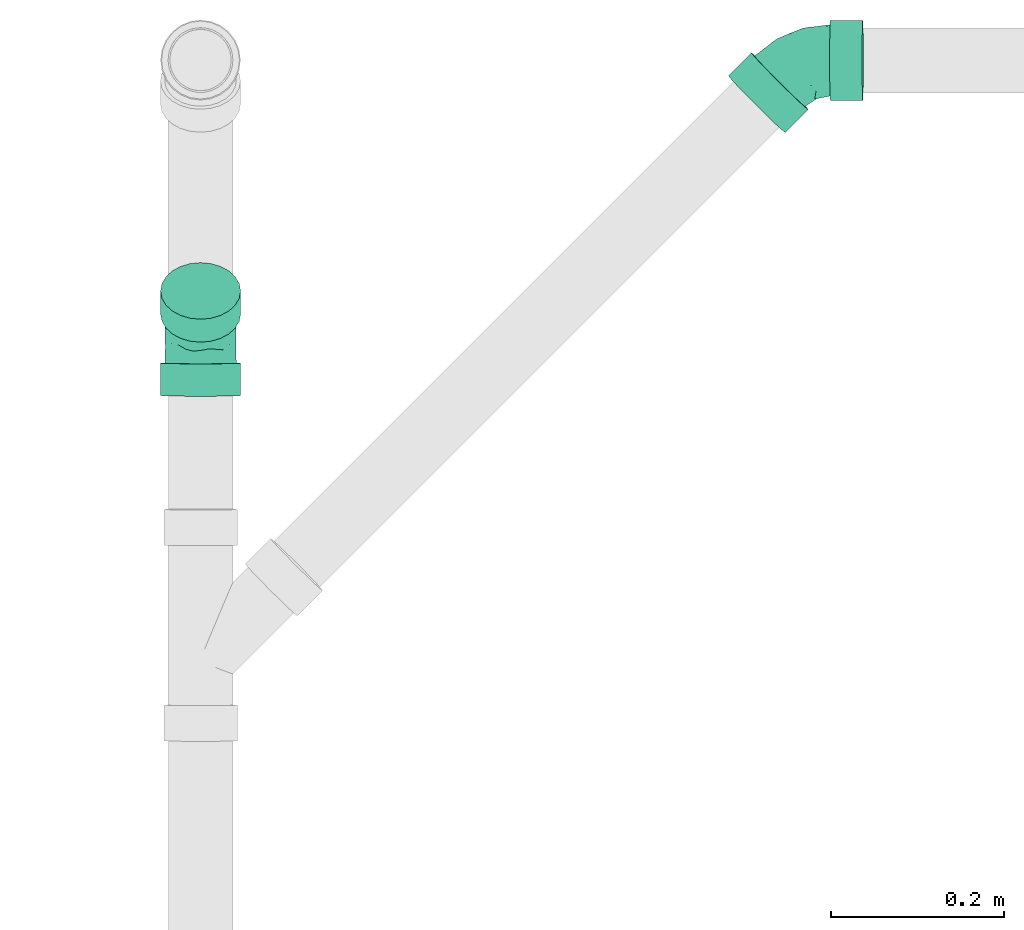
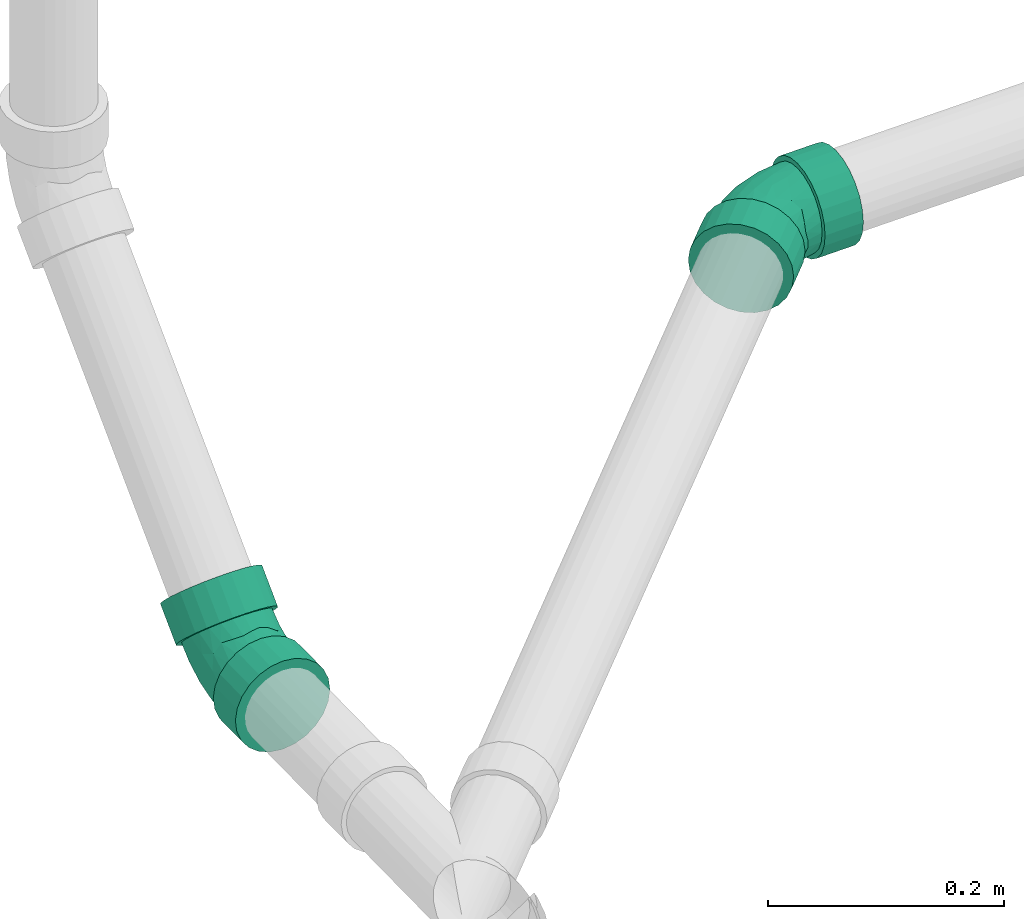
# One storey, part 15 of 18: 2 flow fittings.
"""IFC2X3 building model written with IfcOpenShell, lengths in millimetres."""

from ifc_helpers import new_model, entity, si_unit, converted_unit, derived_unit, direction, frame, origin_with_axes, place, context, subcontext, project, spatial, open_shell, surface_model, source, transform, mapped, type_object, element, save


model = new_model("IFC2X3")

# Units and contexts
model_context = context("Model", 3, precision=0.01, world=frame((0.0, 4.29681676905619e-09, 0.0)), true_north=direction((4.01073788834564e-13, 1.0)))
plan_context = context("Plan", 3, precision=0.01, world=frame((0.0, 4.29681676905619e-09, 0.0)), true_north=direction((4.01073788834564e-13, 1.0)))
body_context = subcontext(model_context, "Body", "Model", "MODEL_VIEW")
ifc_project = project(units=[converted_unit("PLANEANGLEUNIT", "DEGREE", entity("IfcPositiveLengthMeasure", 0.0174532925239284), si_unit("PLANEANGLEUNIT", "RADIAN"), dimensions=[0, 0, 0, 0, 0, 0, 0]), si_unit("AREAUNIT", "SQUARE_METRE"), si_unit("LENGTHUNIT", "METRE", prefix="MILLI"), si_unit("MASSUNIT", "GRAM", prefix="KILO"), si_unit("POWERUNIT", "WATT"), si_unit("PRESSUREUNIT", "PASCAL", prefix="KILO"), si_unit("FORCEUNIT", "NEWTON", prefix="KILO"), si_unit("ELECTRICVOLTAGEUNIT", "VOLT"), si_unit("ELECTRICCURRENTUNIT", "AMPERE"), si_unit("THERMODYNAMICTEMPERATUREUNIT", "DEGREE_CELSIUS"), si_unit("TIMEUNIT", "SECOND"), si_unit("VOLUMEUNIT", "CUBIC_METRE"), derived_unit("LINEARVELOCITYUNIT", [(si_unit("LENGTHUNIT", "METRE"), 1), (si_unit("TIMEUNIT", "SECOND"), -1)]), derived_unit("VOLUMETRICFLOWRATEUNIT", [(si_unit("VOLUMEUNIT", "CUBIC_METRE"), 1), (si_unit("TIMEUNIT", "SECOND"), -1)]), derived_unit("THERMALTRANSMITTANCEUNIT", [(si_unit("POWERUNIT", "WATT"), 1), (si_unit("THERMODYNAMICTEMPERATUREUNIT", "KELVIN"), -1), (si_unit("AREAUNIT", "SQUARE_METRE"), -1)]), derived_unit("SOUNDPRESSUREUNIT", [(si_unit("PRESSUREUNIT", "PASCAL"), 1)])], contexts=[model_context, plan_context])

# Site, building, storey
site_placement = place(None, frame((0.0, -4.29681676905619e-09, 0.0), z_axis=(0.0, 0.0, 1.0), x_axis=(1.0, 0.0, 0.0)))
site = spatial("IfcSite", under=ifc_project, at=site_placement, Name="ENGM", CompositionType="ELEMENT")
building_placement = place(site_placement, frame((0.0, 4.29681676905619e-09, 0.0), z_axis=(0.0, 0.0, 1.0), x_axis=(1.0, 0.0, 0.0)))
building = spatial("IfcBuilding", under=site, at=building_placement, Name="TI", CompositionType="ELEMENT")
storey_placement = place(building_placement, frame((0.0, 0.0, 204000.0), z_axis=(0.0, 0.0, 1.0), x_axis=(1.0, 0.0, 0.0)))
storey = spatial("IfcBuildingStorey", under=building, at=storey_placement, Name="Nivå D", CompositionType="ELEMENT", Elevation=204000.0)

# Flow fittings
pipe_fitting_type = type_object("IfcPipeFittingType", Name="magi_sewer_bend_001", PredefinedType="BEND")
shared_shape_1 = source(origin_with_axes(), body_context, "Body", "SurfaceModel", [
    surface_model("IfcShellBasedSurfaceModel", [(-71.66702, -44.67407, -11.97038), (-71.66702, -11.97038, -44.67407), (-71.66702, -23.125, -40.05367), (-71.66702, -32.70369, -32.70369), (-71.66702, 0.0, -46.25), (-71.66702, -40.05367, -23.125), (-71.66702, -46.25, 0.0), (-71.66702, 11.97038, -44.67407), (-71.66702, 32.70369, -32.70369), (-71.66702, 23.125, -40.05367), (-71.66702, 44.67407, -11.97038), (-71.66702, 40.05367, -23.125), (-71.66702, -32.70369, 32.70369), (-71.66702, -44.67407, 11.97038), (-71.66702, -40.05367, 23.125), (-71.66702, 40.05367, 23.125), (-71.66702, -23.125, 40.05367), (-71.66702, -11.97038, 44.67407), (-71.66702, 0.0, 46.25), (-71.66702, 11.97038, 44.67407), (-71.66702, 44.67407, 11.97038), (-71.66702, 46.25, 0.0), (-71.66702, 23.125, 40.05367), (-71.66702, 32.70369, 32.70369), (-34.16702, 0.0, 46.25), (-34.16702, -11.97038, 44.67407), (-34.16702, -23.125, 40.05367), (-34.16702, -32.70369, 32.70369), (-34.16702, -40.05367, 23.125), (-34.16702, -44.67407, 11.97038), (-34.16702, 40.05367, 23.125), (-34.16702, -44.67407, -11.97038), (-34.16702, 23.125, 40.05367), (-34.16702, 32.70369, 32.70369), (-34.16702, 11.97038, 44.67407), (-34.16702, 44.67407, 11.97038), (-34.16702, 44.67407, -11.97038), (-34.16702, 46.25, 0.0), (-34.16702, -32.70369, -32.70369), (-34.16702, -40.05367, -23.125), (-34.16702, -23.125, -40.05367), (-34.16702, -11.97038, -44.67407), (-34.16702, 11.97038, -44.67407), (-34.16702, 32.70369, -32.70369), (-34.16702, 40.05367, -23.125), (-34.16702, 23.125, -40.05367), (-34.16702, 0.0, -46.25), (-34.16702, -46.25, 0.0), (19.09643, 82.26337, -11.97038), (-4.15641, 52.48244, -23.125), (-7.42315, 55.74993, -11.97038), (22.36316, 78.99587, -23.125), (17.98221, 83.37784, 0.0), (-8.53737, 56.86441, 0.0), (-7.42315, 55.74993, 11.97038), (19.09643, 82.26337, 11.97038), (-4.15641, 52.48244, 23.125), (22.36316, 78.99587, 23.125), (-34.16702, 10.67629, -39.84444), (-34.16702, 0.0, -41.25), (-34.16702, 35.72355, -20.625), (-34.16702, 20.625, -35.72355), (-34.16702, -10.67629, -39.84444), (-34.16702, 29.16816, -29.16816), (-34.16702, 39.84444, -10.67629), (-34.16702, -29.16816, -29.16816), (-34.16702, -35.72355, -20.625), (-34.16702, -20.625, -35.72355), (-34.16702, -39.84444, -10.67629), (-34.16702, -41.25, 0.0), (-34.16702, -39.84444, 10.67629), (-34.16702, 41.25, 0.0), (-34.16702, 35.72355, 20.625), (-34.16702, 39.84444, 10.67629), (-34.16702, 10.67629, 39.84444), (-34.16702, 20.625, 35.72355), (-34.16702, 29.16816, 29.16816), (-34.16702, -35.72355, 20.625), (-34.16702, -29.16816, 29.16816), (-34.16702, -10.67629, 39.84444), (-34.16702, -20.625, 35.72355), (-34.16702, 0.0, 41.25), (10.50531, -25.36621, 22.98802), (-9.12256, -23.31381, 31.83032), (-13.31498, -31.5484, 24.15362), (16.61413, 31.70708, 39.84444), (1.22636, 24.79684, 38.50086), (7.45592, 19.52292, 40.64982), (-16.3424, -15.1263, 37.70052), (-12.30728, -3.97177, 40.70356), (-3.92229, 9.47079, 41.105), (-20.66514, 5.7159, 40.99964), (-11.71483, 28.28675, 33.67645), (-18.1858, 34.59425, 26.03138), (-15.84486, 17.16523, 38.56285), (-13.77675, -38.56597, 0.0), (-8.80116, -38.00327, 7.04424), (9.58014, 38.7427, 35.72355), (3.53992, 44.78432, 29.16816), (15.91574, -27.00127, 16.25786), (-7.39335, -35.68797, 14.32543), (12.806, -30.92149, 8.96693), (-16.99001, 41.02423, 16.94694), (30.46077, -20.01085, 14.32543), (-1.09491, 49.42022, 20.625), (-4.00848, 52.33447, 10.67629), (11.51171, 5.89276, 40.70356), (33.09334, -20.65284, 7.04424), (27.6997, -24.67542, 0.0), (12.77846, -30.85499, 0.0), (-12.30728, -3.97177, -40.70356), (-18.39925, 16.66898, -38.50086), (-19.07593, 8.53487, -40.64982), (-11.59821, 37.32247, -26.03138), (-16.99001, 41.02423, -16.94694), (-19.56631, 42.93748, -8.66693), (9.58014, 38.7427, -35.72355), (16.61413, 31.70708, -39.84444), (-0.93094, 23.34177, -38.56285), (-8.80116, -38.00327, -7.04424), (-7.39335, -35.68797, -14.32543), (3.53992, 44.78432, -29.16816), (-11.71484, 28.28674, -33.67645), (-13.31498, -31.5484, -24.15362), (-9.12256, -23.31381, -31.83032), (-16.3424, -15.1263, -37.70052), (-4.00848, 52.33447, -10.67629), (-1.09491, 49.42022, -20.625), (4.23545, -10.22695, -37.18093), (-18.38354, 44.38906, 0.0), (10.50531, -25.36621, -22.98801), (-5.00225, 53.32847, 0.0), (11.51171, 5.89276, -40.70356), (22.25183, 0.85733, -37.70052), (22.93482, -10.03739, -31.83032), (-3.92229, 9.47079, -41.105), (10.57287, 18.65299, -40.99964), (12.806, -30.92149, -8.96692), (33.09334, -20.65284, -7.04424), (30.46077, -20.01085, -14.32543), (27.55978, 73.79804, 32.70369), (42.21875, 59.13567, 44.67407), (34.33216, 67.02409, 40.05367), (67.03205, 34.31661, -40.05367), (27.55978, 73.79804, -32.70369), (42.21875, 59.13567, -44.67407), (34.33216, 67.02409, -40.05367), (50.68211, 50.67035, 46.25), (59.14546, 42.20503, 44.67407), (67.03205, 34.31661, 40.05367), (73.80442, 27.54267, 32.70369), (79.00105, 22.34484, 23.125), (82.26778, 19.07735, 11.97038), (83.382, 17.96287, 0.0), (59.14546, 42.20503, -44.67407), (50.68211, 50.67035, -46.25), (79.00105, 22.34484, -23.125), (73.80442, 27.54267, -32.70369), (82.26778, 19.07735, -11.97038), (56.86242, -8.55056, 0.0), (55.7482, -7.43608, 11.97038), (52.48147, -4.16859, 23.125), (40.51248, 7.80318, -40.05367), (40.51248, 7.80318, 40.05367), (32.62588, 15.6916, 44.67407), (47.28485, 1.02924, 32.70369), (15.69917, 32.62225, 44.67407), (52.48147, -4.16859, -23.125), (47.28485, 1.02924, -32.70369), (55.7482, -7.43608, -11.97038), (32.62588, 15.6916, -44.67407), (15.69917, 32.62225, -44.67407), (24.16253, 24.15692, -46.25), (1.04021, 47.2846, 32.70369), (7.81258, 40.51067, 40.05367), (1.04021, 47.2846, -32.70369), (7.81258, 40.51067, -40.05367), (24.16253, 24.15692, 46.25), (52.33353, -4.02062, -10.67629), (24.16253, 24.15692, -41.25), (38.74491, 9.57116, -35.72355), (49.41996, -1.10637, -20.625), (44.78513, 3.52953, -29.16816), (31.71093, 16.60677, -39.84444), (52.33353, -4.02062, 10.67629), (53.3273, -5.01461, 0.0), (31.71093, 16.60677, 39.84444), (49.41996, -1.10637, 20.625), (44.78513, 3.52953, 29.16816), (38.74491, 9.57116, 35.72355), (24.16253, 24.15692, 41.25), (-2.14278, -37.03456, 0.0), (31.7217, -12.89666, 24.15362), (4.23545, -10.22695, 37.18093), (22.25183, 0.85733, 37.70052), (37.00985, -17.53293, 0.0), (-16.52079, 44.19876, 8.66693), (22.93482, -10.03739, 31.83032), (6.92292, -16.71616, 32.89588), (6.92292, -16.71616, -32.89588), (7.83514, -30.34782, -16.25786), (31.7217, -12.89666, -24.15362)], [open_shell([[[0, 1, 2]], [[0, 2, 3]], [[1, 0, 4]], [[0, 3, 5]], [[4, 0, 6]], [[7, 8, 9]], [[8, 7, 4]], [[8, 10, 11]], [[10, 8, 4]], [[4, 6, 10]], [[6, 12, 10]], [[13, 14, 12]], [[10, 12, 15]], [[16, 17, 18]], [[16, 18, 12]], [[19, 12, 18]], [[10, 20, 21]], [[15, 20, 10]], [[15, 22, 23]], [[22, 15, 19]], [[12, 19, 15]], [[6, 13, 12]], [[24, 25, 26]], [[24, 26, 27]], [[27, 28, 29]], [[24, 27, 30]], [[27, 31, 30]], [[32, 30, 33]], [[30, 32, 34]], [[35, 36, 37]], [[30, 34, 24]], [[35, 30, 36]], [[27, 29, 31]], [[36, 30, 31]], [[38, 31, 39]], [[40, 41, 31]], [[40, 31, 38]], [[42, 31, 41]], [[36, 43, 44]], [[36, 31, 43]], [[43, 42, 45]], [[31, 42, 43]], [[41, 46, 42]], [[31, 29, 47]], [[36, 10, 37]], [[44, 11, 36]], [[9, 43, 45]], [[44, 43, 8]], [[7, 45, 42]], [[36, 11, 10]], [[10, 21, 37]], [[7, 9, 45]], [[8, 43, 9]], [[8, 11, 44]], [[4, 7, 42]], [[42, 46, 4]], [[46, 41, 1]], [[5, 39, 31]], [[39, 3, 38]], [[0, 31, 47]], [[1, 40, 2]], [[40, 1, 41]], [[40, 38, 2]], [[38, 3, 2]], [[39, 5, 3]], [[0, 5, 31]], [[47, 6, 0]], [[46, 1, 4]], [[29, 13, 47]], [[28, 14, 29]], [[16, 27, 26]], [[28, 27, 12]], [[17, 26, 25]], [[29, 14, 13]], [[13, 6, 47]], [[17, 16, 26]], [[12, 27, 16]], [[12, 14, 28]], [[18, 17, 25]], [[25, 24, 18]], [[33, 22, 32]], [[35, 15, 30]], [[33, 30, 23]], [[20, 35, 37]], [[32, 19, 34]], [[32, 22, 19]], [[19, 18, 34]], [[33, 23, 22]], [[30, 15, 23]], [[20, 15, 35]], [[37, 21, 20]], [[34, 18, 24]], [[48, 49, 50]], [[48, 51, 49]], [[52, 48, 50]], [[50, 53, 52]], [[53, 54, 55]], [[55, 56, 57]], [[56, 55, 54]], [[53, 55, 52]], [[58, 59, 60]], [[61, 58, 60]], [[62, 60, 59]], [[63, 61, 60]], [[64, 60, 62]], [[65, 66, 67]], [[62, 67, 66]], [[66, 68, 62]], [[68, 64, 62]], [[69, 70, 68]], [[71, 64, 68]], [[72, 73, 71]], [[70, 72, 68]], [[74, 75, 76]], [[70, 76, 72]], [[76, 70, 74]], [[77, 78, 70]], [[79, 70, 78]], [[80, 79, 78]], [[79, 74, 70]], [[79, 81, 74]], [[71, 68, 72]], [[82, 83, 84]], [[80, 78, 83]], [[84, 83, 78]], [[85, 86, 87]], [[79, 80, 88]], [[89, 90, 91]], [[81, 79, 89]], [[76, 92, 93]], [[91, 74, 81]], [[75, 94, 92]], [[70, 95, 96]], [[97, 98, 92]], [[99, 100, 101]], [[92, 76, 75]], [[78, 77, 84]], [[72, 93, 102]], [[73, 72, 102]], [[103, 99, 101]], [[100, 96, 101]], [[75, 74, 94]], [[104, 105, 102]], [[82, 84, 100]], [[90, 87, 86]], [[77, 100, 84]], [[91, 94, 74]], [[77, 70, 100]], [[104, 102, 93]], [[104, 93, 98]], [[90, 89, 106]], [[85, 97, 86]], [[86, 92, 94]], [[88, 89, 79]], [[72, 76, 93]], [[98, 93, 92]], [[92, 86, 97]], [[90, 86, 94]], [[83, 88, 80]], [[70, 69, 95]], [[70, 96, 100]], [[107, 101, 108]], [[101, 107, 103]], [[106, 87, 90]], [[89, 91, 81]], [[94, 91, 90]], [[100, 99, 82]], [[108, 101, 109]], [[62, 59, 110]], [[111, 112, 58]], [[60, 113, 63]], [[114, 113, 60]], [[64, 115, 114]], [[116, 117, 118]], [[68, 119, 95]], [[61, 111, 58]], [[119, 68, 120]], [[121, 122, 113]], [[120, 66, 123]], [[123, 65, 124]], [[65, 67, 124]], [[68, 66, 120]], [[65, 123, 66]], [[125, 67, 62]], [[126, 127, 114]], [[128, 125, 110]], [[71, 129, 115]], [[130, 123, 124]], [[131, 126, 115]], [[128, 110, 132]], [[121, 116, 122]], [[114, 60, 64]], [[127, 113, 114]], [[125, 124, 67]], [[118, 122, 116]], [[112, 110, 59]], [[122, 118, 111]], [[63, 122, 61]], [[128, 133, 134]], [[135, 136, 132]], [[135, 132, 110]], [[136, 118, 117]], [[135, 112, 111]], [[119, 120, 137]], [[126, 114, 115]], [[127, 121, 113]], [[63, 113, 122]], [[122, 111, 61]], [[135, 111, 118]], [[110, 125, 62]], [[124, 125, 128]], [[132, 133, 128]], [[95, 69, 68]], [[138, 137, 139]], [[137, 108, 109]], [[137, 138, 108]], [[110, 112, 135]], [[59, 58, 112]], [[118, 136, 135]], [[71, 115, 64]], [[115, 129, 131]], [[55, 57, 140]], [[55, 140, 141]], [[55, 141, 48]], [[141, 140, 142]], [[141, 143, 48]], [[48, 144, 51]], [[48, 52, 55]], [[144, 145, 146]], [[145, 144, 48]], [[48, 143, 145]], [[141, 147, 148]], [[148, 149, 150]], [[150, 151, 141]], [[143, 151, 152]], [[151, 143, 141]], [[153, 143, 152]], [[145, 154, 155]], [[143, 154, 145]], [[143, 156, 157]], [[143, 153, 156]], [[158, 156, 153]], [[148, 150, 141]], [[159, 160, 161]], [[162, 159, 161]], [[163, 164, 161]], [[163, 161, 165]], [[166, 162, 161]], [[167, 162, 168]], [[167, 169, 159]], [[170, 171, 172]], [[167, 159, 162]], [[170, 162, 171]], [[166, 161, 164]], [[171, 162, 166]], [[173, 166, 174]], [[50, 173, 56]], [[50, 166, 173]], [[54, 50, 56]], [[171, 175, 176]], [[175, 171, 50]], [[175, 50, 49]], [[171, 166, 50]], [[54, 53, 50]], [[166, 164, 177]], [[171, 145, 172]], [[176, 146, 171]], [[51, 175, 49]], [[176, 175, 144]], [[171, 146, 145]], [[145, 155, 172]], [[144, 175, 51]], [[144, 146, 176]], [[142, 174, 166]], [[174, 140, 173]], [[141, 166, 177]], [[56, 173, 57]], [[173, 140, 57]], [[174, 142, 140]], [[141, 142, 166]], [[177, 147, 141]], [[164, 148, 177]], [[163, 149, 164]], [[151, 165, 161]], [[163, 165, 150]], [[152, 161, 160]], [[164, 149, 148]], [[148, 147, 177]], [[152, 151, 161]], [[150, 165, 151]], [[150, 149, 163]], [[153, 152, 160]], [[160, 159, 153]], [[168, 156, 167]], [[170, 143, 162]], [[168, 162, 157]], [[154, 170, 172]], [[167, 158, 169]], [[167, 156, 158]], [[158, 153, 169]], [[168, 157, 156]], [[162, 143, 157]], [[154, 143, 170]], [[172, 155, 154]], [[169, 153, 159]], [[117, 178, 179]], [[116, 178, 117]], [[121, 127, 126]], [[121, 126, 116]], [[116, 104, 178]], [[180, 181, 182]], [[180, 183, 179]], [[180, 178, 181]], [[179, 178, 180]], [[178, 184, 185]], [[104, 116, 126]], [[105, 104, 126]], [[178, 104, 186]], [[98, 97, 85]], [[98, 85, 104]], [[186, 104, 85]], [[178, 187, 184]], [[178, 188, 187]], [[188, 186, 189]], [[186, 188, 178]], [[85, 190, 186]], [[105, 126, 131]], [[95, 191, 96]], [[187, 188, 192]], [[88, 83, 193]], [[189, 186, 194]], [[184, 107, 195]], [[196, 71, 73]], [[190, 87, 106]], [[188, 189, 197]], [[106, 186, 190]], [[188, 197, 192]], [[197, 189, 194]], [[107, 184, 103]], [[82, 192, 197]], [[82, 99, 192]], [[73, 102, 196]], [[129, 196, 131]], [[83, 198, 193]], [[105, 196, 102]], [[193, 106, 89]], [[193, 194, 106]], [[103, 184, 187]], [[103, 187, 192]], [[198, 82, 197]], [[89, 88, 193]], [[106, 194, 186]], [[197, 194, 193]], [[101, 191, 109]], [[191, 101, 96]], [[195, 107, 108]], [[195, 185, 184]], [[190, 85, 87]], [[82, 198, 83]], [[197, 193, 198]], [[131, 196, 105]], [[196, 129, 71]], [[192, 99, 103]], [[191, 119, 137]], [[179, 183, 132]], [[180, 182, 134]], [[181, 178, 139]], [[199, 130, 124]], [[133, 132, 183]], [[178, 195, 138]], [[136, 117, 179]], [[133, 183, 180]], [[200, 139, 137]], [[182, 201, 134]], [[182, 181, 201]], [[201, 130, 134]], [[138, 195, 108]], [[130, 200, 123]], [[134, 199, 128]], [[181, 139, 201]], [[130, 201, 139]], [[134, 133, 180]], [[95, 119, 191]], [[200, 137, 120]], [[178, 185, 195]], [[178, 138, 139]], [[132, 136, 179]], [[130, 199, 134]], [[124, 128, 199]], [[123, 200, 120]], [[139, 200, 130]], [[191, 137, 109]]])]),
])
flow_fitting_1_placement = place(storey_placement, frame((591670.50818, 578148.49495, 6013.45189), z_axis=(-0.0166590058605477, -0.0262210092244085, 0.999517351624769), x_axis=(-0.999861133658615, 1.92229198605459e-08, -0.0166647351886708)))
element("IfcFlowFitting", 1, at=flow_fitting_1_placement, inside=storey, type_object=pipe_fitting_type, Name="magi_sewer_bend_001", context=body_context, shape_type="MappedRepresentation", body=[
    mapped(shared_shape_1, transform((0.0, 0.0, 0.0), scale=1.0)),
])
shared_shape_2 = source(origin_with_axes(), body_context, "Body", "SurfaceModel", [
    surface_model("IfcShellBasedSurfaceModel", [(-70.87053, -44.67407, -11.97038), (-70.87053, -11.97038, -44.67407), (-70.87053, -23.125, -40.05367), (-70.87053, -32.70369, -32.70369), (-70.87053, 0.0, -46.25), (-70.87053, -40.05367, -23.125), (-70.87053, -46.25, 0.0), (-70.87053, 11.97038, -44.67407), (-70.87053, 32.70369, -32.70369), (-70.87053, 23.125, -40.05367), (-70.87053, 44.67407, -11.97038), (-70.87053, 40.05367, -23.125), (-70.87053, -32.70369, 32.70369), (-70.87053, -44.67407, 11.97038), (-70.87053, -40.05367, 23.125), (-70.87053, 40.05367, 23.125), (-70.87053, -23.125, 40.05367), (-70.87053, -11.97038, 44.67407), (-70.87053, 0.0, 46.25), (-70.87053, 11.97038, 44.67407), (-70.87053, 44.67407, 11.97038), (-70.87053, 46.25, 0.0), (-70.87053, 23.125, 40.05367), (-70.87053, 32.70369, 32.70369), (-33.37053, 0.0, 46.25), (-33.37053, -11.97038, 44.67407), (-33.37053, -23.125, 40.05367), (-33.37053, -32.70369, 32.70369), (-33.37053, -40.05367, 23.125), (-33.37053, -44.67407, 11.97038), (-33.37053, 40.05367, 23.125), (-33.37053, -44.67407, -11.97038), (-33.37053, 23.125, 40.05367), (-33.37053, 32.70369, 32.70369), (-33.37053, 11.97038, 44.67407), (-33.37053, 44.67407, 11.97038), (-33.37053, 44.67407, -11.97038), (-33.37053, 46.25, 0.0), (-33.37053, -32.70369, -32.70369), (-33.37053, -40.05367, -23.125), (-33.37053, -23.125, -40.05367), (-33.37053, -11.97038, -44.67407), (-33.37053, 11.97038, -44.67407), (-33.37053, 32.70369, -32.70369), (-33.37053, 40.05367, -23.125), (-33.37053, 23.125, -40.05367), (-33.37053, 0.0, -46.25), (-33.37053, -46.25, 0.0), (19.88172, 81.38257, 11.97038), (23.09397, 78.0615, 23.125), (28.20393, 72.77845, 32.70369), (34.86335, 65.89344, 40.05367), (42.61841, 57.87567, 44.67407), (28.20393, 72.77845, -32.70369), (50.94062, 49.27155, -46.25), (42.61841, 57.87567, -44.67407), (19.88172, 81.38257, -11.97038), (23.09397, 78.0615, -23.125), (18.78608, 82.51532, 0.0), (34.86335, 65.89344, -40.05367), (50.94062, 49.27155, 46.25), (59.26283, 40.66743, 44.67407), (67.01789, 32.64967, 40.05367), (73.67731, 25.76466, 32.70369), (78.78727, 20.48161, 23.125), (81.99952, 17.16054, 11.97038), (83.09516, 16.02778, 0.0), (81.99952, 17.16054, -11.97038), (67.01789, 32.64967, -40.05367), (59.26283, 40.66743, -44.67407), (73.67731, 25.76466, -32.70369), (78.78727, 20.48161, -23.125), (56.14075, -10.04346, 0.0), (55.04511, -8.91071, 11.97038), (51.83286, -5.58964, 23.125), (46.7229, -0.30659, 32.70369), (40.06348, 6.57842, 40.05367), (32.30842, 14.59619, 44.67407), (40.06348, 6.57842, -40.05367), (15.664, 31.80442, 44.67407), (55.04511, -8.91071, -11.97038), (46.7229, -0.30659, -32.70369), (51.83286, -5.58964, -23.125), (32.30842, 14.59619, -44.67407), (15.664, 31.80442, -44.67407), (23.98621, 23.20031, -46.25), (23.98621, 23.20031, 46.25), (-7.07269, 55.31132, 11.97038), (7.90894, 39.82219, 40.05367), (1.24952, 46.7072, 32.70369), (-3.86044, 51.99025, 23.125), (-8.16833, 56.44407, 0.0), (1.24952, 46.7072, -32.70369), (7.90894, 39.82219, -40.05367), (-3.86044, 51.99025, -23.125), (-7.07269, 55.31132, -11.97038), (-33.37053, 10.67629, -39.84444), (-33.37053, 0.0, -41.25), (-33.37053, 35.72355, -20.625), (-33.37053, 20.625, -35.72355), (-33.37053, -10.67629, -39.84444), (-33.37053, 29.16816, -29.16816), (-33.37053, 39.84444, -10.67629), (-33.37053, -29.16816, -29.16816), (-33.37053, -35.72355, -20.625), (-33.37053, -20.625, -35.72355), (-33.37053, -39.84444, -10.67629), (-33.37053, -41.25, 0.0), (-33.37053, -39.84444, 10.67629), (-33.37053, 41.25, 0.0), (-33.37053, 35.72355, 20.625), (-33.37053, 39.84444, 10.67629), (-33.37053, 10.67629, 39.84444), (-33.37053, 20.625, 35.72355), (-33.37053, 29.16816, 29.16816), (-33.37053, -35.72355, 20.625), (-33.37053, -29.16816, 29.16816), (-33.37053, -10.67629, 39.84444), (-33.37053, -20.625, 35.72355), (-33.37053, 0.0, 41.25), (16.5637, 30.87425, -39.84444), (51.68739, -5.43925, -10.67629), (23.98621, 23.20031, -41.25), (-0.84999, 48.87783, -20.625), (9.64703, 38.02523, -35.72355), (3.70754, 44.16591, -29.16816), (51.68739, -5.43925, 10.67629), (38.3254, 8.37538, -35.72355), (48.82241, -2.47722, -20.625), (44.26489, 2.2347, -29.16816), (31.40872, 15.52636, -39.84444), (52.66459, -6.44954, 0.0), (-3.71497, 51.83986, -10.67629), (-4.69216, 52.85015, 0.0), (-3.71497, 51.83986, 10.67629), (-0.84999, 48.87783, 20.625), (44.26489, 2.2347, 29.16816), (3.70754, 44.16591, 29.16816), (9.64703, 38.02523, 35.72355), (16.5637, 30.87425, 39.84444), (31.40872, 15.52636, 39.84444), (48.82241, -2.47722, 20.625), (38.3254, 8.37538, 35.72355), (23.98621, 23.20031, 41.25), (-12.58872, -31.5443, 24.17665), (-6.97769, -35.75417, 14.37651), (10.38552, -25.67551, 23.07842), (-12.97051, -38.62187, 0.0), (-2.00573, -37.20928, 0.0), (-8.32039, -38.05929, 7.1005), (-8.64239, -23.35056, 31.86049), (30.97922, -13.92145, 24.17665), (-16.00271, -15.16454, 37.71975), (4.23178, -10.46197, 37.22194), (7.28993, 19.10314, 40.61953), (-11.73597, -3.98726, 40.7101), (-3.76091, 9.29787, 41.09815), (-20.23952, 5.69237, 40.99517), (-11.38783, 28.15346, 33.63784), (-17.42251, 34.60071, 26.01092), (22.04539, 0.22559, 37.71975), (-15.17509, 17.16222, 38.55099), (15.41908, -27.52231, 16.38775), (12.64871, -31.27065, 9.13658), (-16.54518, 40.90367, 16.89885), (32.44065, -21.57181, 7.1005), (36.1742, -18.74326, 0.0), (-16.29123, 43.94868, 8.64115), (29.87294, -20.84841, 14.37651), (11.2077, 5.29326, 40.7101), (22.4461, -10.77554, 31.86049), (1.50517, 24.54506, 38.4802), (-17.90272, 44.25985, 0.0), (6.80706, -16.82869, 33.07718), (12.65254, -31.28014, 0.0), (27.31081, -25.35099, 0.0), (-11.73597, -3.98726, -40.7101), (-8.32039, -38.05929, -7.1005), (12.64871, -31.27065, -9.13658), (11.2077, 5.29326, -40.7101), (-18.52103, 8.66283, -40.61953), (-11.53254, 36.98315, -26.01092), (22.4461, -10.77554, -31.86049), (-16.54518, 40.90367, -16.89885), (29.87294, -20.84841, -14.37651), (-18.8447, 42.91582, -8.64115), (-1.02413, 22.88617, -38.55099), (-18.14643, 16.59615, -38.4802), (-6.97769, -35.75417, -14.37651), (-11.38783, 28.15346, -33.63784), (30.97922, -13.92145, -24.17665), (10.38552, -25.67551, -23.07842), (-12.58872, -31.5443, -24.17665), (-8.64239, -23.35056, -31.86049), (6.80706, -16.82869, -33.07718), (-16.00271, -15.16454, -37.71975), (22.04539, 0.22559, -37.71975), (4.23178, -10.46197, -37.22194), (32.44065, -21.57181, -7.1005), (10.59032, 18.16277, -40.99517), (8.05144, -30.50246, -16.38775), (-3.76091, 9.29787, -41.09815)], [open_shell([[[0, 1, 2]], [[0, 2, 3]], [[1, 0, 4]], [[0, 3, 5]], [[4, 0, 6]], [[7, 8, 9]], [[8, 7, 4]], [[8, 10, 11]], [[10, 8, 4]], [[4, 6, 10]], [[6, 12, 10]], [[13, 14, 12]], [[10, 12, 15]], [[16, 17, 18]], [[16, 18, 12]], [[19, 12, 18]], [[10, 20, 21]], [[15, 20, 10]], [[15, 22, 23]], [[22, 15, 19]], [[12, 19, 15]], [[6, 13, 12]], [[24, 25, 26]], [[24, 26, 27]], [[27, 28, 29]], [[24, 27, 30]], [[27, 31, 30]], [[32, 30, 33]], [[30, 32, 34]], [[35, 36, 37]], [[30, 34, 24]], [[35, 30, 36]], [[27, 29, 31]], [[36, 30, 31]], [[38, 31, 39]], [[40, 41, 31]], [[40, 31, 38]], [[42, 31, 41]], [[36, 43, 44]], [[36, 31, 43]], [[43, 42, 45]], [[31, 42, 43]], [[41, 46, 42]], [[31, 29, 47]], [[36, 10, 37]], [[44, 11, 36]], [[9, 43, 45]], [[44, 43, 8]], [[7, 45, 42]], [[36, 11, 10]], [[10, 21, 37]], [[7, 9, 45]], [[8, 43, 9]], [[8, 11, 44]], [[4, 7, 42]], [[42, 46, 4]], [[46, 41, 1]], [[5, 39, 31]], [[39, 3, 38]], [[0, 31, 47]], [[1, 40, 2]], [[40, 1, 41]], [[40, 38, 2]], [[38, 3, 2]], [[39, 5, 3]], [[0, 5, 31]], [[47, 6, 0]], [[46, 1, 4]], [[29, 13, 47]], [[28, 14, 29]], [[16, 27, 26]], [[28, 27, 12]], [[17, 26, 25]], [[29, 14, 13]], [[13, 6, 47]], [[17, 16, 26]], [[12, 27, 16]], [[12, 14, 28]], [[18, 17, 25]], [[25, 24, 18]], [[33, 22, 32]], [[35, 15, 30]], [[33, 30, 23]], [[20, 35, 37]], [[32, 19, 34]], [[32, 22, 19]], [[19, 18, 34]], [[33, 23, 22]], [[30, 15, 23]], [[20, 15, 35]], [[37, 21, 20]], [[34, 18, 24]], [[48, 49, 50]], [[48, 50, 51]], [[48, 52, 53]], [[52, 48, 51]], [[54, 55, 52]], [[56, 53, 57]], [[56, 58, 48]], [[53, 55, 59]], [[56, 48, 53]], [[52, 55, 53]], [[52, 60, 54]], [[61, 62, 63]], [[60, 63, 54]], [[64, 65, 66]], [[64, 66, 63]], [[67, 63, 66]], [[54, 68, 69]], [[54, 63, 68]], [[70, 67, 71]], [[68, 63, 70]], [[63, 67, 70]], [[63, 60, 61]], [[72, 73, 74]], [[72, 74, 75]], [[75, 76, 77]], [[72, 75, 78]], [[75, 79, 78]], [[80, 81, 82]], [[81, 80, 78]], [[83, 84, 85]], [[78, 80, 72]], [[83, 78, 84]], [[75, 77, 86]], [[84, 78, 79]], [[87, 79, 88]], [[89, 90, 87]], [[89, 87, 88]], [[91, 79, 87]], [[84, 92, 93]], [[84, 79, 92]], [[94, 91, 95]], [[91, 94, 92]], [[79, 91, 92]], [[79, 75, 86]], [[84, 55, 85]], [[93, 59, 84]], [[57, 92, 94]], [[93, 92, 53]], [[56, 94, 95]], [[84, 59, 55]], [[55, 54, 85]], [[56, 57, 94]], [[53, 92, 57]], [[53, 59, 93]], [[58, 56, 95]], [[95, 91, 58]], [[91, 87, 48]], [[51, 88, 79]], [[88, 50, 89]], [[52, 79, 86]], [[48, 90, 49]], [[90, 48, 87]], [[90, 89, 49]], [[89, 50, 49]], [[88, 51, 50]], [[52, 51, 79]], [[86, 60, 52]], [[91, 48, 58]], [[77, 61, 86]], [[76, 62, 77]], [[64, 75, 74]], [[76, 75, 63]], [[65, 74, 73]], [[77, 62, 61]], [[61, 60, 86]], [[65, 64, 74]], [[63, 75, 64]], [[63, 62, 76]], [[66, 65, 73]], [[73, 72, 66]], [[81, 71, 82]], [[83, 68, 78]], [[81, 78, 70]], [[69, 83, 85]], [[82, 67, 80]], [[82, 71, 67]], [[67, 66, 80]], [[81, 70, 71]], [[78, 68, 70]], [[69, 68, 83]], [[85, 54, 69]], [[80, 66, 72]], [[96, 97, 98]], [[99, 96, 98]], [[100, 98, 97]], [[101, 99, 98]], [[102, 98, 100]], [[103, 104, 105]], [[100, 105, 104]], [[104, 106, 100]], [[106, 102, 100]], [[107, 108, 106]], [[109, 102, 106]], [[110, 111, 109]], [[108, 110, 106]], [[112, 113, 114]], [[108, 114, 110]], [[114, 108, 112]], [[115, 116, 108]], [[117, 108, 116]], [[118, 117, 116]], [[117, 112, 108]], [[117, 119, 112]], [[109, 106, 110]], [[120, 121, 122]], [[123, 120, 124]], [[121, 120, 123]], [[123, 124, 125]], [[126, 121, 123]], [[127, 128, 129]], [[127, 130, 122]], [[127, 121, 128]], [[122, 121, 127]], [[121, 126, 131]], [[126, 123, 132]], [[133, 134, 135]], [[136, 133, 135]], [[137, 138, 139]], [[135, 137, 136]], [[139, 140, 137]], [[126, 136, 141]], [[126, 133, 136]], [[136, 140, 142]], [[136, 137, 140]], [[143, 140, 139]], [[133, 126, 132]], [[144, 145, 146]], [[147, 148, 149]], [[118, 116, 150]], [[141, 136, 151]], [[152, 150, 153]], [[144, 116, 115]], [[139, 154, 143]], [[117, 118, 152]], [[155, 156, 157]], [[119, 117, 155]], [[114, 158, 159]], [[142, 140, 160]], [[157, 112, 119]], [[113, 161, 158]], [[108, 147, 149]], [[138, 137, 158]], [[162, 145, 163]], [[158, 114, 113]], [[144, 150, 116]], [[110, 159, 164]], [[111, 110, 164]], [[126, 165, 166]], [[167, 109, 111]], [[168, 162, 163]], [[145, 149, 163]], [[113, 112, 161]], [[143, 154, 169]], [[136, 142, 170]], [[135, 134, 164]], [[169, 140, 143]], [[150, 144, 146]], [[168, 141, 151]], [[171, 154, 139]], [[170, 142, 160]], [[145, 144, 115]], [[165, 126, 168]], [[170, 151, 136]], [[157, 161, 112]], [[151, 170, 146]], [[111, 164, 167]], [[115, 108, 145]], [[172, 167, 133]], [[150, 173, 153]], [[134, 167, 164]], [[153, 169, 155]], [[135, 164, 159]], [[153, 160, 169]], [[135, 159, 137]], [[156, 155, 169]], [[139, 138, 171]], [[171, 158, 161]], [[152, 155, 117]], [[110, 114, 159]], [[168, 126, 141]], [[151, 146, 162]], [[173, 146, 170]], [[137, 159, 158]], [[158, 171, 138]], [[156, 171, 161]], [[150, 152, 118]], [[155, 152, 153]], [[169, 160, 140]], [[170, 160, 153]], [[108, 107, 147]], [[163, 148, 174]], [[108, 149, 145]], [[148, 163, 149]], [[165, 163, 175]], [[166, 165, 175]], [[166, 131, 126]], [[163, 165, 168]], [[171, 156, 154]], [[154, 156, 169]], [[155, 157, 119]], [[161, 157, 156]], [[146, 173, 150]], [[170, 153, 173]], [[133, 167, 134]], [[167, 172, 109]], [[151, 162, 168]], [[145, 162, 146]], [[175, 163, 174]], [[100, 97, 176]], [[148, 177, 178]], [[122, 130, 179]], [[180, 97, 96]], [[98, 181, 101]], [[127, 129, 182]], [[183, 181, 98]], [[128, 121, 184]], [[102, 185, 183]], [[124, 120, 186]], [[106, 177, 147]], [[99, 187, 96]], [[177, 106, 188]], [[125, 189, 181]], [[182, 190, 191]], [[192, 188, 104]], [[103, 105, 193]], [[194, 191, 193]], [[106, 104, 188]], [[103, 192, 104]], [[195, 105, 100]], [[196, 179, 130]], [[132, 123, 183]], [[197, 195, 176]], [[109, 172, 185]], [[184, 190, 128]], [[133, 132, 185]], [[197, 176, 179]], [[125, 124, 189]], [[183, 98, 102]], [[123, 181, 183]], [[195, 193, 105]], [[186, 189, 124]], [[180, 176, 97]], [[189, 186, 187]], [[101, 189, 99]], [[121, 166, 198]], [[199, 120, 122]], [[196, 130, 127]], [[200, 184, 178]], [[128, 190, 129]], [[197, 196, 182]], [[190, 182, 129]], [[201, 199, 179]], [[191, 190, 184]], [[201, 179, 176]], [[198, 166, 175]], [[199, 186, 120]], [[187, 180, 96]], [[177, 188, 178]], [[192, 193, 191]], [[182, 194, 197]], [[193, 192, 103]], [[132, 183, 185]], [[192, 191, 200]], [[123, 125, 181]], [[101, 181, 189]], [[189, 187, 99]], [[201, 187, 186]], [[176, 195, 100]], [[193, 195, 197]], [[182, 196, 127]], [[179, 196, 197]], [[147, 177, 148]], [[147, 107, 106]], [[200, 178, 188]], [[198, 178, 184]], [[178, 175, 174]], [[121, 131, 166]], [[178, 198, 175]], [[121, 198, 184]], [[187, 201, 180]], [[180, 201, 176]], [[179, 199, 122]], [[186, 199, 201]], [[191, 194, 182]], [[193, 197, 194]], [[109, 185, 102]], [[185, 172, 133]], [[192, 200, 188]], [[184, 200, 191]], [[148, 178, 174]]])]),
])
flow_fitting_2_placement = place(storey_placement, frame((590977.2116, 577831.96878, 5989.98595), z_axis=(-1.0, 0.0, 0.0), x_axis=(0.0, -0.707106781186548, -0.707106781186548)))
element("IfcFlowFitting", 2, at=flow_fitting_2_placement, inside=storey, type_object=pipe_fitting_type, Name="magi_sewer_bend_001", context=body_context, shape_type="MappedRepresentation", body=[
    mapped(shared_shape_2, transform((0.0, 0.0, 0.0), scale=1.0)),
])

save(model, "model.ifc")
